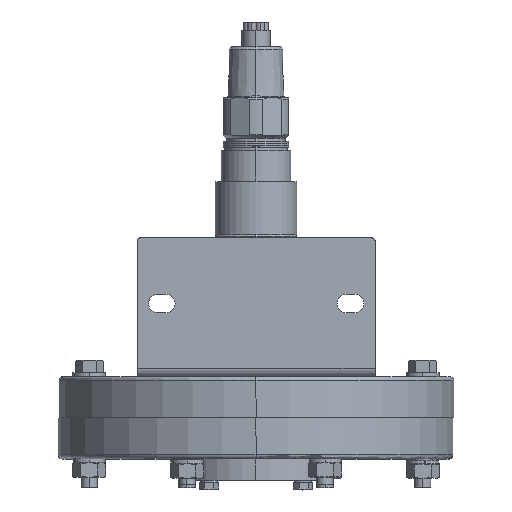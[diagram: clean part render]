
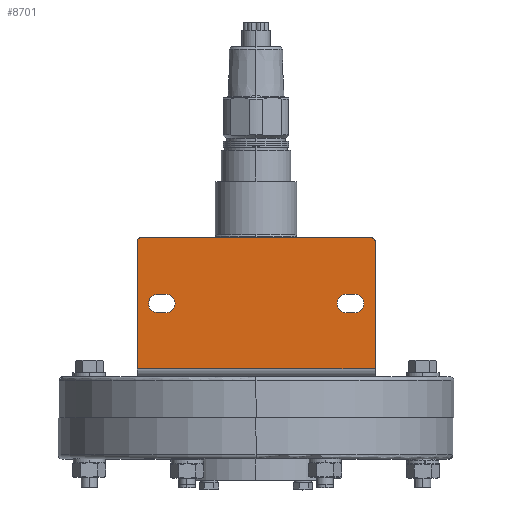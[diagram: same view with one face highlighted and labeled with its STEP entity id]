
A CAD part, top view. The second image highlights one B-rep face of the part: STEP entity #8701.
In plain terms, the highlighted planar face has unit normal (0, 0, 1).
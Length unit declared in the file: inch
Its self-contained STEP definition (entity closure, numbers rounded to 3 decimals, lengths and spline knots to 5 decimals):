
#373 = LINE ( 'NONE', #15603, #4089 ) ;
#396 = DIRECTION ( 'NONE',  ( 0., 0., -1. ) ) ;
#442 = ORIENTED_EDGE ( 'NONE', *, *, #20582, .T. ) ;
#552 = DIRECTION ( 'NONE',  ( -1., 0., 0. ) ) ;
#577 = CARTESIAN_POINT ( 'NONE',  ( 1.50238, 0.59, 3.15067 ) ) ;
#585 = VERTEX_POINT ( 'NONE', #2514 ) ;
#915 = ORIENTED_EDGE ( 'NONE', *, *, #15613, .T. ) ;
#1257 = CARTESIAN_POINT ( 'NONE',  ( -1.37262, 0.31, 3.15067 ) ) ;
#1492 = VECTOR ( 'NONE', #16796, 39.37008 ) ;
#1546 = CARTESIAN_POINT ( 'NONE',  ( -1.81012, 1.4, 3.15067 ) ) ;
#1692 = CARTESIAN_POINT ( 'NONE',  ( -1.49762, 0.45, 3.15067 ) ) ;
#1881 = EDGE_CURVE ( 'NONE', #16453, #3986, #14203, .T. ) ;
#1951 = VECTOR ( 'NONE', #13741, 39.37008 ) ;
#2008 = EDGE_CURVE ( 'NONE', #3032, #15354, #373, .T. ) ;
#2014 = EDGE_CURVE ( 'NONE', #3986, #14926, #5615, .T. ) ;
#2193 = VERTEX_POINT ( 'NONE', #15707 ) ;
#2212 = ORIENTED_EDGE ( 'NONE', *, *, #20136, .T. ) ;
#2332 = CARTESIAN_POINT ( 'NONE',  ( 1.76488, 1.4, 3.15067 ) ) ;
#2384 = AXIS2_PLACEMENT_3D ( 'NONE', #1692, #8390, #15065 ) ;
#2514 = CARTESIAN_POINT ( 'NONE',  ( 1.23738, 0.45, 3.15067 ) ) ;
#2547 = ORIENTED_EDGE ( 'NONE', *, *, #13832, .T. ) ;
#2653 = ORIENTED_EDGE ( 'NONE', *, *, #7194, .T. ) ;
#2701 = CIRCLE ( 'NONE', #10758, 0.14 ) ;
#2750 = VECTOR ( 'NONE', #21258, 39.37008 ) ;
#2997 = CARTESIAN_POINT ( 'NONE',  ( -1.81012, 1.45, 3.15067 ) ) ;
#3032 = VERTEX_POINT ( 'NONE', #3444 ) ;
#3143 = CIRCLE ( 'NONE', #20666, 0.05 ) ;
#3175 = DIRECTION ( 'NONE',  ( -1., 0., 0. ) ) ;
#3444 = CARTESIAN_POINT ( 'NONE',  ( 1.81488, -0.54219, 3.15067 ) ) ;
#3797 = FACE_BOUND ( 'NONE', #6764, .T. ) ;
#3800 = VECTOR ( 'NONE', #16469, 39.37008 ) ;
#3986 = VERTEX_POINT ( 'NONE', #11065 ) ;
#4010 = DIRECTION ( 'NONE',  ( 1., 0., 0. ) ) ;
#4066 = EDGE_LOOP ( 'NONE', ( #15465, #13264, #2212, #15161, #2653, #5349 ) ) ;
#4089 = VECTOR ( 'NONE', #7285, 39.37008 ) ;
#4155 = VERTEX_POINT ( 'NONE', #5432 ) ;
#4295 = DIRECTION ( 'NONE',  ( 0., -1., 0. ) ) ;
#4318 = CARTESIAN_POINT ( 'NONE',  ( -1.63762, 0.45, 3.15067 ) ) ;
#4619 = ORIENTED_EDGE ( 'NONE', *, *, #1881, .T. ) ;
#4749 = EDGE_LOOP ( 'NONE', ( #20474, #4619, #13223, #11740, #14178 ) ) ;
#4902 = CARTESIAN_POINT ( 'NONE',  ( 1.50238, 0.45, 3.15067 ) ) ;
#5009 = CARTESIAN_POINT ( 'NONE',  ( 1.37738, 0.59, 3.15067 ) ) ;
#5258 = EDGE_CURVE ( 'NONE', #12690, #19394, #20345, .T. ) ;
#5349 = ORIENTED_EDGE ( 'NONE', *, *, #2008, .F. ) ;
#5389 = EDGE_CURVE ( 'NONE', #585, #16320, #12295, .T. ) ;
#5432 = CARTESIAN_POINT ( 'NONE',  ( -1.49762, 0.59, 3.15067 ) ) ;
#5615 = LINE ( 'NONE', #12312, #1951 ) ;
#5815 = CARTESIAN_POINT ( 'NONE',  ( 1.37738, 0.45, 3.15067 ) ) ;
#6493 = EDGE_CURVE ( 'NONE', #4155, #14395, #10390, .T. ) ;
#6688 = DIRECTION ( 'NONE',  ( 0., 0., -1. ) ) ;
#6764 = EDGE_LOOP ( 'NONE', ( #442, #915, #2547, #18337, #20242 ) ) ;
#6773 = CARTESIAN_POINT ( 'NONE',  ( 1.81488, -0.55, 3.15067 ) ) ;
#6974 = DIRECTION ( 'NONE',  ( -1., 0., 0. ) ) ;
#7002 = VERTEX_POINT ( 'NONE', #4318 ) ;
#7194 = EDGE_CURVE ( 'NONE', #19394, #15354, #8591, .T. ) ;
#7285 = DIRECTION ( 'NONE',  ( -1., 0., 0. ) ) ;
#7375 = DIRECTION ( 'NONE',  ( 1., 0., 0. ) ) ;
#7672 = CARTESIAN_POINT ( 'NONE',  ( 1.81488, 1.45, 3.15067 ) ) ;
#8390 = DIRECTION ( 'NONE',  ( 0., 0., -1. ) ) ;
#8477 = LINE ( 'NONE', #2997, #3800 ) ;
#8591 = LINE ( 'NONE', #18568, #1492 ) ;
#8701 = ADVANCED_FACE ( 'NONE', ( #3797, #12244, #11923 ), #10169, .F. ) ;
#8859 = DIRECTION ( 'NONE',  ( 0., 0., -1. ) ) ;
#8902 = AXIS2_PLACEMENT_3D ( 'NONE', #20679, #396, #6974 ) ;
#9159 = CARTESIAN_POINT ( 'NONE',  ( -1.76012, 1.4, 3.15067 ) ) ;
#9217 = EDGE_CURVE ( 'NONE', #11531, #13462, #3143, .T. ) ;
#9917 = CARTESIAN_POINT ( 'NONE',  ( 1.37738, 0.45, 3.15067 ) ) ;
#10023 = DIRECTION ( 'NONE',  ( 1., 0., 0. ) ) ;
#10169 = PLANE ( 'NONE',  #20798 ) ;
#10390 = LINE ( 'NONE', #10821, #19677 ) ;
#10525 = CARTESIAN_POINT ( 'NONE',  ( -1.37262, 0.31, 3.15067 ) ) ;
#10758 = AXIS2_PLACEMENT_3D ( 'NONE', #5815, #17555, #15585 ) ;
#10821 = CARTESIAN_POINT ( 'NONE',  ( -1.49762, 0.59, 3.15067 ) ) ;
#10836 = VECTOR ( 'NONE', #552, 39.37008 ) ;
#11065 = CARTESIAN_POINT ( 'NONE',  ( 1.50238, 0.31, 3.15067 ) ) ;
#11265 = CARTESIAN_POINT ( 'NONE',  ( 1.50238, 0.59, 3.15067 ) ) ;
#11531 = VERTEX_POINT ( 'NONE', #13391 ) ;
#11740 = ORIENTED_EDGE ( 'NONE', *, *, #12951, .T. ) ;
#11923 = FACE_OUTER_BOUND ( 'NONE', #4066, .T. ) ;
#11955 = LINE ( 'NONE', #10525, #10836 ) ;
#11975 = CARTESIAN_POINT ( 'NONE',  ( -1.81012, -0.54219, 3.15067 ) ) ;
#12244 = FACE_BOUND ( 'NONE', #4749, .T. ) ;
#12295 = CIRCLE ( 'NONE', #16479, 0.14 ) ;
#12312 = CARTESIAN_POINT ( 'NONE',  ( 1.37738, 0.31, 3.15067 ) ) ;
#12690 = VERTEX_POINT ( 'NONE', #14101 ) ;
#12920 = LINE ( 'NONE', #7672, #2750 ) ;
#12951 = EDGE_CURVE ( 'NONE', #14926, #585, #2701, .T. ) ;
#12953 = EDGE_CURVE ( 'NONE', #16320, #16453, #14045, .T. ) ;
#13063 = CIRCLE ( 'NONE', #20770, 0.14 ) ;
#13223 = ORIENTED_EDGE ( 'NONE', *, *, #2014, .T. ) ;
#13264 = ORIENTED_EDGE ( 'NONE', *, *, #9217, .T. ) ;
#13391 = CARTESIAN_POINT ( 'NONE',  ( 1.81488, 1.4, 3.15067 ) ) ;
#13462 = VERTEX_POINT ( 'NONE', #18938 ) ;
#13559 = DIRECTION ( 'NONE',  ( 0., -1., 0. ) ) ;
#13570 = DIRECTION ( 'NONE',  ( 0., 0., -1. ) ) ;
#13741 = DIRECTION ( 'NONE',  ( -1., 0., 0. ) ) ;
#13832 = EDGE_CURVE ( 'NONE', #7002, #4155, #14293, .T. ) ;
#13900 = VECTOR ( 'NONE', #7375, 39.37008 ) ;
#13954 = DIRECTION ( 'NONE',  ( 0., 0., 1. ) ) ;
#14045 = LINE ( 'NONE', #577, #13900 ) ;
#14101 = CARTESIAN_POINT ( 'NONE',  ( -1.76012, 1.45, 3.15067 ) ) ;
#14178 = ORIENTED_EDGE ( 'NONE', *, *, #5389, .T. ) ;
#14203 = CIRCLE ( 'NONE', #18071, 0.14 ) ;
#14256 = CARTESIAN_POINT ( 'NONE',  ( -1.37262, 0.59, 3.15067 ) ) ;
#14293 = CIRCLE ( 'NONE', #2384, 0.14 ) ;
#14395 = VERTEX_POINT ( 'NONE', #14256 ) ;
#14531 = DIRECTION ( 'NONE',  ( 0., 0., 1. ) ) ;
#14897 = DIRECTION ( 'NONE',  ( 1., 0., 0. ) ) ;
#14908 = CARTESIAN_POINT ( 'NONE',  ( -1.49762, 0.45, 3.15067 ) ) ;
#14926 = VERTEX_POINT ( 'NONE', #20552 ) ;
#15065 = DIRECTION ( 'NONE',  ( -1., 0., 0. ) ) ;
#15161 = ORIENTED_EDGE ( 'NONE', *, *, #5258, .T. ) ;
#15354 = VERTEX_POINT ( 'NONE', #11975 ) ;
#15439 = AXIS2_PLACEMENT_3D ( 'NONE', #9159, #14531, #15837 ) ;
#15465 = ORIENTED_EDGE ( 'NONE', *, *, #21632, .T. ) ;
#15585 = DIRECTION ( 'NONE',  ( 1., 0., 0. ) ) ;
#15603 = CARTESIAN_POINT ( 'NONE',  ( 1.81488, -0.54219, 3.15067 ) ) ;
#15613 = EDGE_CURVE ( 'NONE', #2193, #7002, #13063, .T. ) ;
#15707 = CARTESIAN_POINT ( 'NONE',  ( -1.49762, 0.31, 3.15067 ) ) ;
#15837 = DIRECTION ( 'NONE',  ( 0., -1., 0. ) ) ;
#16320 = VERTEX_POINT ( 'NONE', #5009 ) ;
#16381 = DIRECTION ( 'NONE',  ( 0., 0., -1. ) ) ;
#16453 = VERTEX_POINT ( 'NONE', #11265 ) ;
#16469 = DIRECTION ( 'NONE',  ( -1., 0., 0. ) ) ;
#16479 = AXIS2_PLACEMENT_3D ( 'NONE', #9917, #16381, #10023 ) ;
#16796 = DIRECTION ( 'NONE',  ( 0., -1., 0. ) ) ;
#17555 = DIRECTION ( 'NONE',  ( 0., 0., -1. ) ) ;
#17846 = EDGE_CURVE ( 'NONE', #14395, #21057, #18349, .T. ) ;
#18071 = AXIS2_PLACEMENT_3D ( 'NONE', #4902, #13570, #14897 ) ;
#18337 = ORIENTED_EDGE ( 'NONE', *, *, #6493, .T. ) ;
#18349 = CIRCLE ( 'NONE', #8902, 0.14 ) ;
#18568 = CARTESIAN_POINT ( 'NONE',  ( -1.81012, -0.55, 3.15067 ) ) ;
#18938 = CARTESIAN_POINT ( 'NONE',  ( 1.76488, 1.45, 3.15067 ) ) ;
#19394 = VERTEX_POINT ( 'NONE', #1546 ) ;
#19677 = VECTOR ( 'NONE', #4010, 39.37008 ) ;
#20136 = EDGE_CURVE ( 'NONE', #13462, #12690, #8477, .T. ) ;
#20242 = ORIENTED_EDGE ( 'NONE', *, *, #17846, .T. ) ;
#20345 = CIRCLE ( 'NONE', #15439, 0.05 ) ;
#20474 = ORIENTED_EDGE ( 'NONE', *, *, #12953, .T. ) ;
#20552 = CARTESIAN_POINT ( 'NONE',  ( 1.37738, 0.31, 3.15067 ) ) ;
#20582 = EDGE_CURVE ( 'NONE', #21057, #2193, #11955, .T. ) ;
#20666 = AXIS2_PLACEMENT_3D ( 'NONE', #2332, #13954, #4295 ) ;
#20679 = CARTESIAN_POINT ( 'NONE',  ( -1.37262, 0.45, 3.15067 ) ) ;
#20770 = AXIS2_PLACEMENT_3D ( 'NONE', #14908, #6688, #3175 ) ;
#20798 = AXIS2_PLACEMENT_3D ( 'NONE', #6773, #8859, #13559 ) ;
#21057 = VERTEX_POINT ( 'NONE', #1257 ) ;
#21258 = DIRECTION ( 'NONE',  ( 0., 1., 0. ) ) ;
#21632 = EDGE_CURVE ( 'NONE', #3032, #11531, #12920, .T. ) ;
